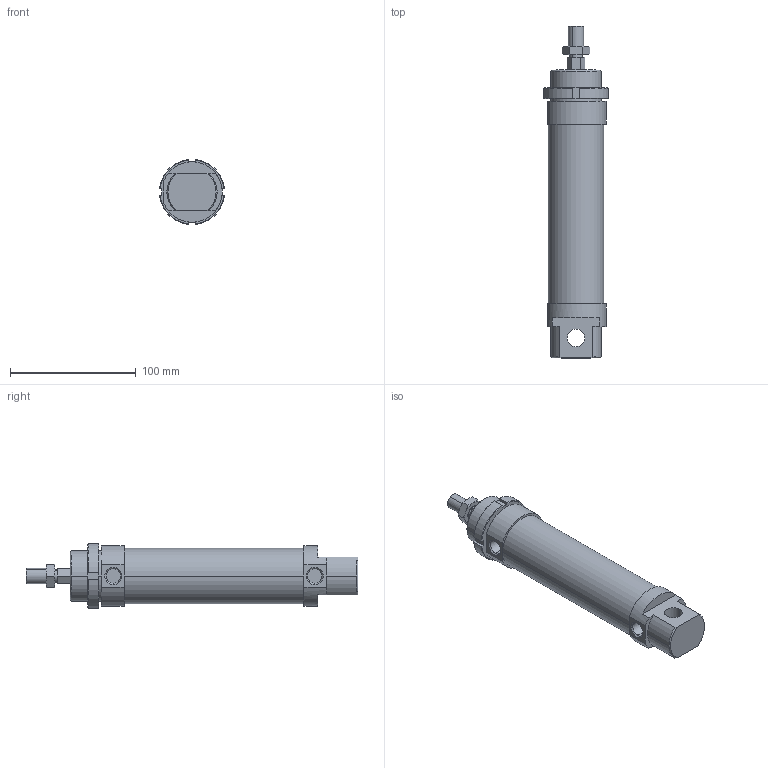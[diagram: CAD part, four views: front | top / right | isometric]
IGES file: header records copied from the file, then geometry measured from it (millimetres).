
Global section: file name: No Iges File Name specified; native system: AutoDesk Inventor R6.0; preprocessor: AutoDesk Inventor Iges Exporter R6.0; author: No Author specified; organization: No Organization specified; date: 20030405.074447; units: millimetre
Bounding box: 51.76 x 264 x 51.76 mm (x, y, z)
Volume: 343087.8 mm3; surface area: 56122.6 mm2
Topology: 4 solids, 4 shells, 126 faces, 298 edges, 188 vertices
Faces by surface type: plane 52, cone 30, cylinder 20, bspline 20, revolution 4
